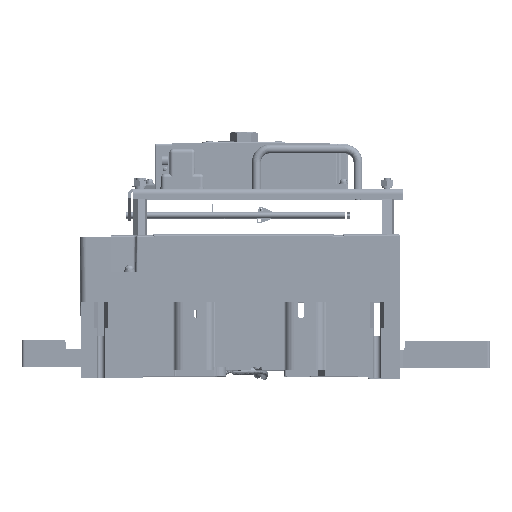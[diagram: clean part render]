
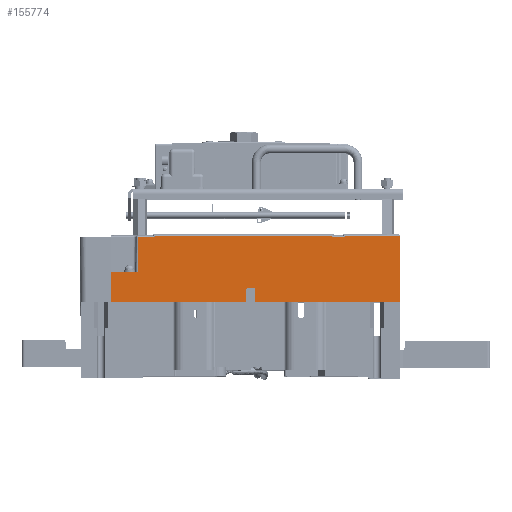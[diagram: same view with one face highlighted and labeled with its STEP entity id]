
A CAD part, top view. The second image highlights one B-rep face of the part: STEP entity #155774.
In plain terms, the highlighted planar face has unit normal (0, 0, 1).
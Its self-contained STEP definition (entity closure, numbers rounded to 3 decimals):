
#1564 = DIRECTION ( 'NONE',  ( -1., 0., 0. ) ) ;
#1565 = VECTOR ( 'NONE', #1564, 1000. ) ;
#1566 = CARTESIAN_POINT ( 'NONE',  ( 165.1, 95.9, 270.342 ) ) ;
#1567 = LINE ( 'NONE', #1566, #1565 ) ;
#1573 = CARTESIAN_POINT ( 'NONE',  ( 104.45, 95.9, 270.342 ) ) ;
#1586 = DIRECTION ( 'NONE',  ( -1., 0., 0. ) ) ;
#1587 = VECTOR ( 'NONE', #1586, 1000. ) ;
#1588 = CARTESIAN_POINT ( 'NONE',  ( 102.45, 97.1, 270.342 ) ) ;
#1589 = LINE ( 'NONE', #1588, #1587 ) ;
#1607 = CARTESIAN_POINT ( 'NONE',  ( 166.8, 97.1, 270.342 ) ) ;
#1613 = DIRECTION ( 'NONE',  ( 0., -1., 0. ) ) ;
#1614 = VECTOR ( 'NONE', #1613, 1000. ) ;
#1615 = CARTESIAN_POINT ( 'NONE',  ( 104.45, 99.1, 270.342 ) ) ;
#1616 = LINE ( 'NONE', #1615, #1614 ) ;
#1621 = CARTESIAN_POINT ( 'NONE',  ( -110.615, 95.9, 270.342 ) ) ;
#1628 = DIRECTION ( 'NONE',  ( -1., 0., 0. ) ) ;
#1629 = VECTOR ( 'NONE', #1628, 1000. ) ;
#1630 = CARTESIAN_POINT ( 'NONE',  ( -112.615, 97.1, 270.342 ) ) ;
#1631 = LINE ( 'NONE', #1630, #1629 ) ;
#1636 = CARTESIAN_POINT ( 'NONE',  ( 104.45, 97.1, 270.342 ) ) ;
#1648 = LINE ( 'NONE', #1684, #1683 ) ;
#1649 = CARTESIAN_POINT ( 'NONE',  ( 90.075, 97.1, 270.342 ) ) ;
#1656 = DIRECTION ( 'NONE',  ( 0., -1., 0. ) ) ;
#1657 = VECTOR ( 'NONE', #1656, 1000. ) ;
#1658 = CARTESIAN_POINT ( 'NONE',  ( -110.615, 99.1, 270.342 ) ) ;
#1659 = LINE ( 'NONE', #1658, #1657 ) ;
#1674 = CARTESIAN_POINT ( 'NONE',  ( -110.615, 97.1, 270.342 ) ) ;
#1682 = DIRECTION ( 'NONE',  ( 0., 1., 0. ) ) ;
#1683 = VECTOR ( 'NONE', #1682, 1000. ) ;
#1684 = CARTESIAN_POINT ( 'NONE',  ( 90.075, 99.1, 270.342 ) ) ;
#1685 = DIRECTION ( 'NONE',  ( 0., 1., 0. ) ) ;
#1686 = VECTOR ( 'NONE', #1685, 1000. ) ;
#1687 = CARTESIAN_POINT ( 'NONE',  ( -160.615, 22.25, 270.342 ) ) ;
#1688 = LINE ( 'NONE', #1687, #1686 ) ;
#1689 = CARTESIAN_POINT ( 'NONE',  ( -160.615, 56.6, 270.342 ) ) ;
#1690 = DIRECTION ( 'NONE',  ( 1., 0., 0. ) ) ;
#1691 = VECTOR ( 'NONE', #1690, 1000. ) ;
#1692 = CARTESIAN_POINT ( 'NONE',  ( -146.258, 56.6, 270.342 ) ) ;
#1693 = LINE ( 'NONE', #1692, #1691 ) ;
#1697 = CARTESIAN_POINT ( 'NONE',  ( 90.075, 95.9, 270.342 ) ) ;
#1709 = DIRECTION ( 'NONE',  ( 0., 0., -1. ) ) ;
#1710 = CARTESIAN_POINT ( 'NONE',  ( 165.1, 99.1, 270.342 ) ) ;
#1711 = AXIS2_PLACEMENT_3D ( 'NONE', #1710, #1709, #1762 ) ;
#1712 = PLANE ( 'NONE',  #1711 ) ;
#1713 = FACE_OUTER_BOUND ( 'NONE', #155776, .T. ) ;
#1718 = DIRECTION ( 'NONE',  ( -0.009, -1., 0. ) ) ;
#1719 = VECTOR ( 'NONE', #1718, 1000. ) ;
#1720 = CARTESIAN_POINT ( 'NONE',  ( -129.864, 101.674, 270.342 ) ) ;
#1721 = LINE ( 'NONE', #1720, #1719 ) ;
#1728 = CARTESIAN_POINT ( 'NONE',  ( -130.257, 56.6, 270.342 ) ) ;
#1729 = DIRECTION ( 'NONE',  ( 0., -1., 0. ) ) ;
#1730 = VECTOR ( 'NONE', #1729, 1000. ) ;
#1731 = CARTESIAN_POINT ( 'NONE',  ( 166.8, 99.1, 270.342 ) ) ;
#1732 = LINE ( 'NONE', #1731, #1730 ) ;
#1752 = DIRECTION ( 'NONE',  ( -1., 0., 0. ) ) ;
#1753 = VECTOR ( 'NONE', #1752, 1000. ) ;
#1754 = CARTESIAN_POINT ( 'NONE',  ( 165.1, 95.9, 270.342 ) ) ;
#1755 = LINE ( 'NONE', #1754, #1753 ) ;
#1756 = CARTESIAN_POINT ( 'NONE',  ( -129.914, 95.9, 270.342 ) ) ;
#1762 = DIRECTION ( 'NONE',  ( -1., 0., 0. ) ) ;
#142200 = VERTEX_POINT ( 'NONE', #214482 ) ;
#142322 = EDGE_CURVE ( 'NONE', #142325, #142200, #214674, .T. ) ;
#142325 = VERTEX_POINT ( 'NONE', #214670 ) ;
#155599 = EDGE_CURVE ( 'NONE', #155627, #155730, #1567, .T. ) ;
#155615 = EDGE_CURVE ( 'NONE', #155644, #155653, #1589, .T. ) ;
#155627 = VERTEX_POINT ( 'NONE', #1573 ) ;
#155631 = EDGE_CURVE ( 'NONE', #155653, #155627, #1616, .T. ) ;
#155644 = VERTEX_POINT ( 'NONE', #1607 ) ;
#155653 = VERTEX_POINT ( 'NONE', #1636 ) ;
#155660 = EDGE_CURVE ( 'NONE', #155692, #155711, #1631, .T. ) ;
#155671 = VERTEX_POINT ( 'NONE', #1621 ) ;
#155680 = EDGE_CURVE ( 'NONE', #155711, #155671, #1659, .T. ) ;
#155692 = VERTEX_POINT ( 'NONE', #1649 ) ;
#155696 = EDGE_CURVE ( 'NONE', #155730, #155692, #1648, .T. ) ;
#155711 = VERTEX_POINT ( 'NONE', #1674 ) ;
#155730 = VERTEX_POINT ( 'NONE', #1697 ) ;
#155739 = EDGE_CURVE ( 'NONE', #155741, #155763, #1693, .T. ) ;
#155741 = VERTEX_POINT ( 'NONE', #1689 ) ;
#155742 = ORIENTED_EDGE ( 'NONE', *, *, #155744, .F. ) ;
#155744 = EDGE_CURVE ( 'NONE', #142325, #155741, #1688, .T. ) ;
#155746 = ORIENTED_EDGE ( 'NONE', *, *, #142322, .T. ) ;
#155747 = ORIENTED_EDGE ( 'NONE', *, *, #155749, .F. ) ;
#155749 = EDGE_CURVE ( 'NONE', #155644, #142200, #1732, .T. ) ;
#155751 = ORIENTED_EDGE ( 'NONE', *, *, #155615, .T. ) ;
#155753 = ORIENTED_EDGE ( 'NONE', *, *, #155631, .T. ) ;
#155755 = ORIENTED_EDGE ( 'NONE', *, *, #155599, .T. ) ;
#155756 = ORIENTED_EDGE ( 'NONE', *, *, #155696, .T. ) ;
#155757 = ORIENTED_EDGE ( 'NONE', *, *, #155660, .T. ) ;
#155763 = VERTEX_POINT ( 'NONE', #1728 ) ;
#155768 = EDGE_CURVE ( 'NONE', #155782, #155763, #1721, .T. ) ;
#155774 = ADVANCED_FACE ( 'NONE', ( #1713 ), #1712, .F. ) ;
#155776 = EDGE_LOOP ( 'NONE', ( #155777, #155778, #155742, #155746, #155747, #155751, #155753, #155755, #155756, #155757, #155856, #155858 ) ) ;
#155777 = ORIENTED_EDGE ( 'NONE', *, *, #155768, .T. ) ;
#155778 = ORIENTED_EDGE ( 'NONE', *, *, #155739, .F. ) ;
#155782 = VERTEX_POINT ( 'NONE', #1756 ) ;
#155784 = EDGE_CURVE ( 'NONE', #155671, #155782, #1755, .T. ) ;
#155856 = ORIENTED_EDGE ( 'NONE', *, *, #155680, .T. ) ;
#155858 = ORIENTED_EDGE ( 'NONE', *, *, #155784, .T. ) ;
#214482 = CARTESIAN_POINT ( 'NONE',  ( 166.8, 22.25, 270.342 ) ) ;
#214670 = CARTESIAN_POINT ( 'NONE',  ( -160.615, 22.25, 270.342 ) ) ;
#214671 = DIRECTION ( 'NONE',  ( 1., 0., 0. ) ) ;
#214672 = VECTOR ( 'NONE', #214671, 1000. ) ;
#214673 = CARTESIAN_POINT ( 'NONE',  ( 165.1, 22.25, 270.342 ) ) ;
#214674 = LINE ( 'NONE', #214673, #214672 ) ;
